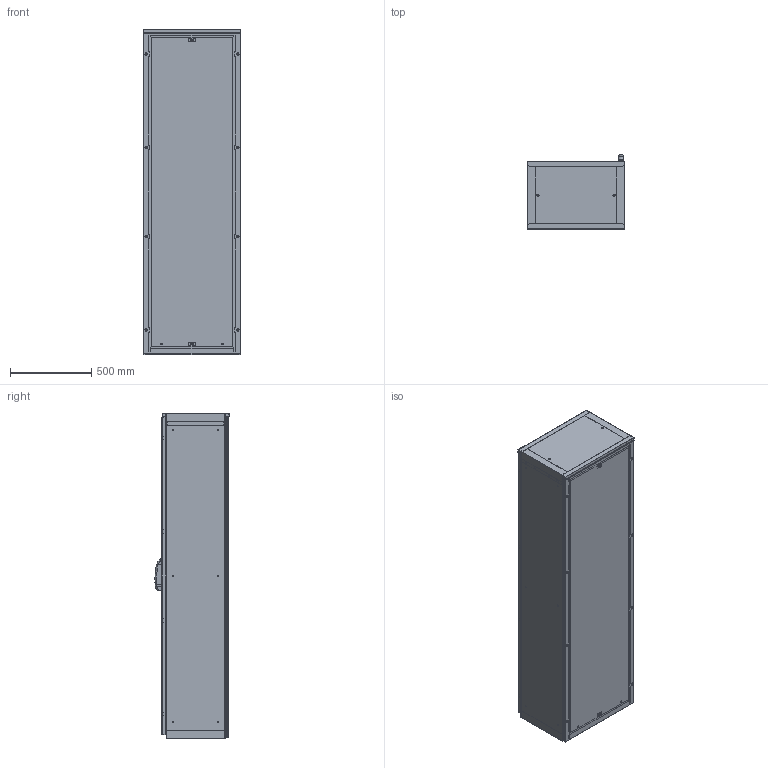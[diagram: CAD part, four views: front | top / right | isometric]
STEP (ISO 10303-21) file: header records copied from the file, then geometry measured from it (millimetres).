
FILE_DESCRIPTION (( 'STEP AP203' ), '1' );
FILE_NAME ('EMOX-062004PRX.STEP', '2025-06-16T15:27:07', ( '' ), ( '' ), 'SwSTEP 2.0', 'SolidWorks 2022', '' );
FILE_SCHEMA (( 'CONFIG_CONTROL_DESIGN' ));
Length unit declared in the file: millimetre
Products named in the file (9): EMOX-062004PRX; AR_EMOX_inox_Retro_singolo_0600x2000; AR_EMOX_inox_struttura_0600x2000x0400; AR_EMOX_inox_Tegolino_0600x0100; AR_EMOX_inox_Piastra_frontale_2.5_0600x2000; AR_EMOX_inox_Porta_singola_2.0_0600x2000_ANT; AR_EMOX_inox_Tegolino_0600x0050; AR_ENUX_nuova_maniglia_mesan; AR_EMOX_inox_montaggio_porta_singola_2.0_0600x2000_ANT_DX
Assembly tree (9 placements, depth 3):
  EMOX-062004PRX
    AR_EMOX_inox_struttura_0600x2000x0400
    AR_EMOX_inox_montaggio_porta_singola_2.0_0600x2000_ANT_DX
      AR_EMOX_inox_Porta_singola_2.0_0600x2000_ANT
      AR_ENUX_nuova_maniglia_mesan
    AR_EMOX_inox_Retro_singolo_0600x2000
    AR_EMOX_inox_Tegolino_0600x0050  x2
    AR_EMOX_inox_Tegolino_0600x0100
    AR_EMOX_inox_Piastra_frontale_2.5_0600x2000
Bounding box: 600 x 456.5 x 2009 mm (x, y, z)
Volume: 12463598.8 mm3; surface area: 14228167.2 mm2
Topology: 8 solids, 8 shells, 2406 faces, 6650 edges, 4274 vertices
Faces by surface type: plane 1277, cylinder 974, cone 64, torus 46, bspline 25, sphere 20
Entity records: 80928 total; most frequent: CARTESIAN_POINT 16751, DIRECTION 13187, ORIENTED_EDGE 12956, EDGE_CURVE 6478, AXIS2_PLACEMENT_3D 4449, VECTOR 4289, LINE 4289, VERTEX_POINT 4194
